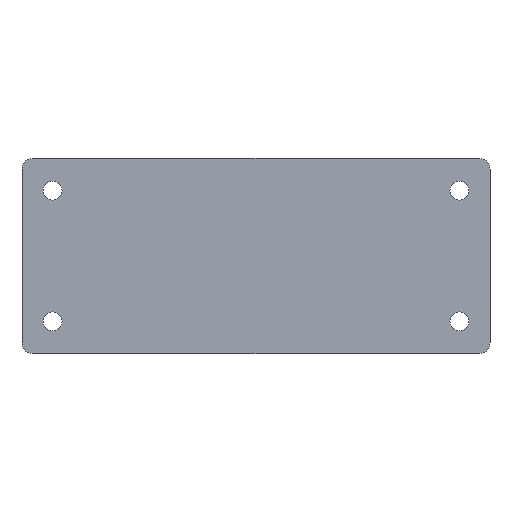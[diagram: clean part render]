
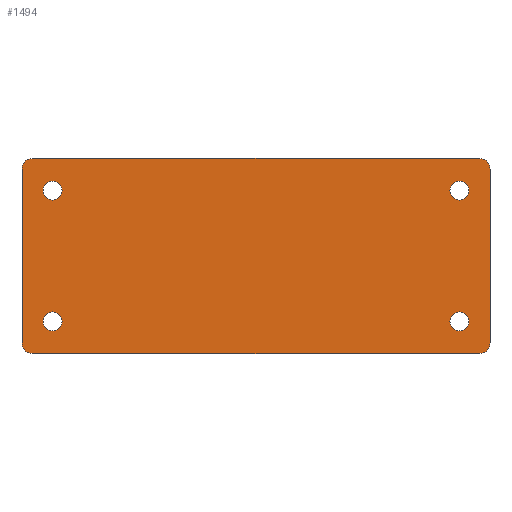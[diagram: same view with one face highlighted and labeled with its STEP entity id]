
A CAD part, front view. The second image highlights one B-rep face of the part: STEP entity #1494.
In plain terms, the highlighted planar face has unit normal (0, -1, 0).
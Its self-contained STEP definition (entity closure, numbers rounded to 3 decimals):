
#4 = PLANE ( 'NONE',  #905 ) ;
#17 = CARTESIAN_POINT ( 'NONE',  ( -106., 0., 41.25 ) ) ;
#26 = DIRECTION ( 'NONE',  ( 0., 0., 1. ) ) ;
#37 = ORIENTED_EDGE ( 'NONE', *, *, #961, .T. ) ;
#62 = ORIENTED_EDGE ( 'NONE', *, *, #1380, .T. ) ;
#75 = FACE_BOUND ( 'NONE', #801, .T. ) ;
#101 = EDGE_LOOP ( 'NONE', ( #1449, #283 ) ) ;
#150 = CARTESIAN_POINT ( 'NONE',  ( 106., 0., -41.25 ) ) ;
#157 = LINE ( 'NONE', #320, #1290 ) ;
#167 = DIRECTION ( 'NONE',  ( 0., 1., 0. ) ) ;
#189 = DIRECTION ( 'NONE',  ( 0., 1., 0. ) ) ;
#191 = EDGE_CURVE ( 'NONE', #1842, #1525, #1533, .T. ) ;
#201 = ORIENTED_EDGE ( 'NONE', *, *, #1321, .T. ) ;
#221 = EDGE_CURVE ( 'NONE', #307, #286, #1535, .T. ) ;
#238 = CARTESIAN_POINT ( 'NONE',  ( -96.5, 0., 31. ) ) ;
#263 = DIRECTION ( 'NONE',  ( 0., 1., 0. ) ) ;
#279 = CARTESIAN_POINT ( 'NONE',  ( -106., 0., -41.25 ) ) ;
#283 = ORIENTED_EDGE ( 'NONE', *, *, #1389, .T. ) ;
#286 = VERTEX_POINT ( 'NONE', #684 ) ;
#298 = CIRCLE ( 'NONE', #683, 4.5 ) ;
#307 = VERTEX_POINT ( 'NONE', #1130 ) ;
#308 = CARTESIAN_POINT ( 'NONE',  ( 106., 0., 46.25 ) ) ;
#320 = CARTESIAN_POINT ( 'NONE',  ( 111., 0., 46.25 ) ) ;
#333 = ORIENTED_EDGE ( 'NONE', *, *, #1337, .T. ) ;
#339 = DIRECTION ( 'NONE',  ( -1., 0., 0. ) ) ;
#368 = DIRECTION ( 'NONE',  ( 0., 0., -1. ) ) ;
#411 = CARTESIAN_POINT ( 'NONE',  ( -111., 0., 46.25 ) ) ;
#413 = CARTESIAN_POINT ( 'NONE',  ( 0., 0., 0. ) ) ;
#429 = ORIENTED_EDGE ( 'NONE', *, *, #1742, .F. ) ;
#434 = CARTESIAN_POINT ( 'NONE',  ( 111., 0., 46.25 ) ) ;
#441 = VERTEX_POINT ( 'NONE', #1821 ) ;
#445 = CIRCLE ( 'NONE', #460, 5. ) ;
#450 = CARTESIAN_POINT ( 'NONE',  ( -96.5, 0., -35.5 ) ) ;
#453 = CIRCLE ( 'NONE', #648, 5. ) ;
#460 = AXIS2_PLACEMENT_3D ( 'NONE', #279, #1127, #1399 ) ;
#491 = ORIENTED_EDGE ( 'NONE', *, *, #580, .T. ) ;
#497 = CARTESIAN_POINT ( 'NONE',  ( 96.5, 0., 26.5 ) ) ;
#498 = EDGE_CURVE ( 'NONE', #1525, #1842, #298, .T. ) ;
#499 = CARTESIAN_POINT ( 'NONE',  ( -96.5, 0., -31. ) ) ;
#514 = EDGE_CURVE ( 'NONE', #1704, #1182, #809, .T. ) ;
#523 = CARTESIAN_POINT ( 'NONE',  ( 111., 0., -41.25 ) ) ;
#528 = AXIS2_PLACEMENT_3D ( 'NONE', #499, #1527, #1368 ) ;
#535 = VECTOR ( 'NONE', #1006, 1000. ) ;
#568 = DIRECTION ( 'NONE',  ( 0., 1., 0. ) ) ;
#572 = VECTOR ( 'NONE', #600, 1000. ) ;
#580 = EDGE_CURVE ( 'NONE', #441, #1259, #453, .T. ) ;
#598 = CARTESIAN_POINT ( 'NONE',  ( -96.5, 0., -26.5 ) ) ;
#600 = DIRECTION ( 'NONE',  ( 0., 0., 1. ) ) ;
#619 = VERTEX_POINT ( 'NONE', #308 ) ;
#623 = VERTEX_POINT ( 'NONE', #598 ) ;
#626 = VERTEX_POINT ( 'NONE', #450 ) ;
#648 = AXIS2_PLACEMENT_3D ( 'NONE', #150, #1148, #1608 ) ;
#651 = DIRECTION ( 'NONE',  ( 0., 0., 1. ) ) ;
#675 = EDGE_CURVE ( 'NONE', #1400, #798, #445, .T. ) ;
#683 = AXIS2_PLACEMENT_3D ( 'NONE', #238, #1233, #1393 ) ;
#684 = CARTESIAN_POINT ( 'NONE',  ( -111., 0., 41.25 ) ) ;
#687 = VERTEX_POINT ( 'NONE', #1834 ) ;
#701 = CARTESIAN_POINT ( 'NONE',  ( 111., 0., 41.25 ) ) ;
#717 = DIRECTION ( 'NONE',  ( 0., 0., 1. ) ) ;
#726 = FACE_OUTER_BOUND ( 'NONE', #1262, .T. ) ;
#742 = VECTOR ( 'NONE', #339, 1000. ) ;
#744 = CARTESIAN_POINT ( 'NONE',  ( -111., 0., -41.25 ) ) ;
#777 = FACE_BOUND ( 'NONE', #1819, .T. ) ;
#779 = DIRECTION ( 'NONE',  ( 0., 0., 1. ) ) ;
#798 = VERTEX_POINT ( 'NONE', #1585 ) ;
#801 = EDGE_LOOP ( 'NONE', ( #62, #201 ) ) ;
#806 = CARTESIAN_POINT ( 'NONE',  ( 96.5, 0., -31. ) ) ;
#809 = CIRCLE ( 'NONE', #1125, 4.5 ) ;
#814 = DIRECTION ( 'NONE',  ( 0., -1., 0. ) ) ;
#828 = ORIENTED_EDGE ( 'NONE', *, *, #1444, .F. ) ;
#830 = CARTESIAN_POINT ( 'NONE',  ( 96.5, 0., -31. ) ) ;
#833 = DIRECTION ( 'NONE',  ( 0., 0., 1. ) ) ;
#860 = CARTESIAN_POINT ( 'NONE',  ( 96.5, 0., 31. ) ) ;
#862 = ORIENTED_EDGE ( 'NONE', *, *, #1737, .F. ) ;
#871 = DIRECTION ( 'NONE',  ( 0., 0., 1. ) ) ;
#905 = AXIS2_PLACEMENT_3D ( 'NONE', #413, #263, #779 ) ;
#912 = DIRECTION ( 'NONE',  ( 0., 0., 1. ) ) ;
#933 = LINE ( 'NONE', #1573, #742 ) ;
#952 = CIRCLE ( 'NONE', #1037, 4.5 ) ;
#957 = AXIS2_PLACEMENT_3D ( 'NONE', #860, #189, #833 ) ;
#958 = CIRCLE ( 'NONE', #1668, 4.5 ) ;
#961 = EDGE_CURVE ( 'NONE', #1001, #687, #958, .T. ) ;
#982 = ORIENTED_EDGE ( 'NONE', *, *, #1300, .F. ) ;
#1001 = VERTEX_POINT ( 'NONE', #1828 ) ;
#1006 = DIRECTION ( 'NONE',  ( 1., 0., 0. ) ) ;
#1034 = EDGE_CURVE ( 'NONE', #1383, #619, #1160, .T. ) ;
#1037 = AXIS2_PLACEMENT_3D ( 'NONE', #1338, #1157, #651 ) ;
#1086 = DIRECTION ( 'NONE',  ( 0., 1., 0. ) ) ;
#1106 = DIRECTION ( 'NONE',  ( 0., -1., 0. ) ) ;
#1119 = ORIENTED_EDGE ( 'NONE', *, *, #191, .T. ) ;
#1125 = AXIS2_PLACEMENT_3D ( 'NONE', #1407, #568, #1556 ) ;
#1127 = DIRECTION ( 'NONE',  ( 0., -1., 0. ) ) ;
#1130 = CARTESIAN_POINT ( 'NONE',  ( -106., 0., 46.25 ) ) ;
#1148 = DIRECTION ( 'NONE',  ( 0., -1., 0. ) ) ;
#1157 = DIRECTION ( 'NONE',  ( 0., 1., 0. ) ) ;
#1160 = CIRCLE ( 'NONE', #1765, 5. ) ;
#1167 = CARTESIAN_POINT ( 'NONE',  ( -96.5, 0., 31. ) ) ;
#1170 = CIRCLE ( 'NONE', #957, 4.5 ) ;
#1182 = VERTEX_POINT ( 'NONE', #497 ) ;
#1233 = DIRECTION ( 'NONE',  ( 0., 1., 0. ) ) ;
#1259 = VERTEX_POINT ( 'NONE', #523 ) ;
#1262 = EDGE_LOOP ( 'NONE', ( #828, #491, #429, #1607, #862, #1439, #982, #1641 ) ) ;
#1290 = VECTOR ( 'NONE', #368, 1000. ) ;
#1300 = EDGE_CURVE ( 'NONE', #1400, #286, #1848, .T. ) ;
#1303 = AXIS2_PLACEMENT_3D ( 'NONE', #1167, #167, #26 ) ;
#1321 = EDGE_CURVE ( 'NONE', #626, #623, #952, .T. ) ;
#1331 = CIRCLE ( 'NONE', #1684, 4.5 ) ;
#1337 = EDGE_CURVE ( 'NONE', #687, #1001, #1331, .T. ) ;
#1338 = CARTESIAN_POINT ( 'NONE',  ( -96.5, 0., -31. ) ) ;
#1368 = DIRECTION ( 'NONE',  ( 0., 0., 1. ) ) ;
#1380 = EDGE_CURVE ( 'NONE', #623, #626, #1455, .T. ) ;
#1383 = VERTEX_POINT ( 'NONE', #701 ) ;
#1389 = EDGE_CURVE ( 'NONE', #1182, #1704, #1170, .T. ) ;
#1393 = DIRECTION ( 'NONE',  ( 0., 0., 1. ) ) ;
#1399 = DIRECTION ( 'NONE',  ( 0., 0., 1. ) ) ;
#1400 = VERTEX_POINT ( 'NONE', #744 ) ;
#1407 = CARTESIAN_POINT ( 'NONE',  ( 96.5, 0., 31. ) ) ;
#1435 = DIRECTION ( 'NONE',  ( 0., 1., 0. ) ) ;
#1439 = ORIENTED_EDGE ( 'NONE', *, *, #221, .T. ) ;
#1444 = EDGE_CURVE ( 'NONE', #441, #798, #933, .T. ) ;
#1449 = ORIENTED_EDGE ( 'NONE', *, *, #514, .T. ) ;
#1455 = CIRCLE ( 'NONE', #528, 4.5 ) ;
#1459 = EDGE_LOOP ( 'NONE', ( #1119, #1590 ) ) ;
#1482 = CARTESIAN_POINT ( 'NONE',  ( -96.5, 0., 35.5 ) ) ;
#1494 = ADVANCED_FACE ( 'NONE', ( #777, #1800, #1552, #75, #726 ), #4, .F. ) ;
#1525 = VERTEX_POINT ( 'NONE', #1553 ) ;
#1527 = DIRECTION ( 'NONE',  ( 0., 1., 0. ) ) ;
#1531 = CARTESIAN_POINT ( 'NONE',  ( 96.5, 0., 35.5 ) ) ;
#1533 = CIRCLE ( 'NONE', #1303, 4.5 ) ;
#1535 = CIRCLE ( 'NONE', #1703, 5. ) ;
#1552 = FACE_BOUND ( 'NONE', #1459, .T. ) ;
#1553 = CARTESIAN_POINT ( 'NONE',  ( -96.5, 0., 26.5 ) ) ;
#1556 = DIRECTION ( 'NONE',  ( 0., 0., 1. ) ) ;
#1573 = CARTESIAN_POINT ( 'NONE',  ( 111., 0., -46.25 ) ) ;
#1585 = CARTESIAN_POINT ( 'NONE',  ( -106., 0., -46.25 ) ) ;
#1590 = ORIENTED_EDGE ( 'NONE', *, *, #498, .T. ) ;
#1607 = ORIENTED_EDGE ( 'NONE', *, *, #1034, .T. ) ;
#1608 = DIRECTION ( 'NONE',  ( 0., 0., 1. ) ) ;
#1631 = LINE ( 'NONE', #434, #535 ) ;
#1640 = CARTESIAN_POINT ( 'NONE',  ( 106., 0., 41.25 ) ) ;
#1641 = ORIENTED_EDGE ( 'NONE', *, *, #675, .T. ) ;
#1668 = AXIS2_PLACEMENT_3D ( 'NONE', #830, #1086, #1749 ) ;
#1684 = AXIS2_PLACEMENT_3D ( 'NONE', #806, #1435, #717 ) ;
#1703 = AXIS2_PLACEMENT_3D ( 'NONE', #17, #1106, #871 ) ;
#1704 = VERTEX_POINT ( 'NONE', #1531 ) ;
#1737 = EDGE_CURVE ( 'NONE', #307, #619, #1631, .T. ) ;
#1742 = EDGE_CURVE ( 'NONE', #1383, #1259, #157, .T. ) ;
#1749 = DIRECTION ( 'NONE',  ( 0., 0., 1. ) ) ;
#1765 = AXIS2_PLACEMENT_3D ( 'NONE', #1640, #814, #912 ) ;
#1800 = FACE_BOUND ( 'NONE', #101, .T. ) ;
#1819 = EDGE_LOOP ( 'NONE', ( #37, #333 ) ) ;
#1821 = CARTESIAN_POINT ( 'NONE',  ( 106., 0., -46.25 ) ) ;
#1828 = CARTESIAN_POINT ( 'NONE',  ( 96.5, 0., -26.5 ) ) ;
#1834 = CARTESIAN_POINT ( 'NONE',  ( 96.5, 0., -35.5 ) ) ;
#1842 = VERTEX_POINT ( 'NONE', #1482 ) ;
#1848 = LINE ( 'NONE', #411, #572 ) ;
